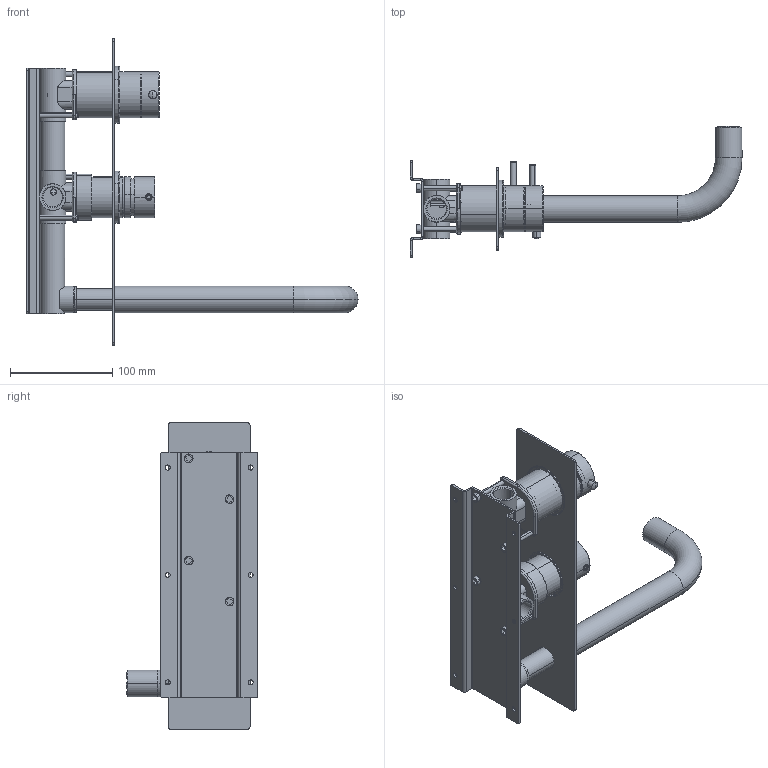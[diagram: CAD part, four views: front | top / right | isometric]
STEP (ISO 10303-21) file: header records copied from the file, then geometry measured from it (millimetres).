
FILE_DESCRIPTION (( 'STEP AP203' ), '1' );
FILE_NAME ('ETM5N.STEP', '2024-02-02T15:25:09', ( '' ), ( '' ), 'SwSTEP 2.0', 'SolidWorks 2023', '' );
FILE_SCHEMA (( 'CONFIG_CONTROL_DESIGN' ));
Length unit declared in the file: millimetre
Products named in the file (47): EU1173_0; C11.14.0013; 1174G; 1000; C12.00.0008; C10.00.0011; C24.1966.00.0; C47.00.0020.01; VITETC5x40; C25.1964.00.0; C13.00.0062; FERMO38; C47.00.0023.01; OR3934262ACS; ADATTATORE MEZZO; AS535_00; OR4569262NBR; 1174; C47.00.0076.00; C47.00.0015; EU0615_0; C24.1457.00.2; CAPPUCCIO VASCA 3 FORI; C10.00.0017; C23.1878.01; C24.1992.00.0; EU1996_0; C25.2691.00; 405-40CPA GEDA; EU1456_0; EU0620_0; C24.1965.00.0; C24.1993.00.0; EU1995_0; C11.14.0007; EROGATORE VASCA E DOCCIA; C25.1173.00.0; IST81; C11.14.0009; ETM5N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
Assembly tree (52 placements, depth 4):
  ETM5N
    IST81
      405-40CPA GEDA
        1174G
        EROGATORE VASCA E DOCCIA
        TUBO DI GIUNZIONE VASCA E DOCCIA
        1174
        ADATTATORE MEZZO
      C24.1966.00.0
      C25.1964.00.0
      C12.00.0008
      C12.00.0017  x2
      1000
      C47.00.0015
      C24.1965.00.0
      C10.00.0011
      VITETC5x40  x4
      C10.00.0017
      C24.1455.00.0
      C47.00.0020.01
      C24.1993.00.0
    AS757_00
      C24.1992.00.0
      C25.1173.00.0
      C23.1878.01
      C11.14.0009
      C11.14.0007
      C47.00.0023.01
    EU1456_0
    FERMO38
    EU0620_0
    EU0615_0
    AS535_00
      C24.1457.00.2
      C25.0814.00.0
      C11.14.0013
      C11.14.0009
      C47.00.0023.01
      C47.00.0076.00
    EU1173_0
    77GP_SPOUTT1
    C13.00.0062
    GRANCO M4x3 ACCIAIO
    CAPPUCCIO VASCA 3 FORI
    C25.2691.00
    EU1995_0
    EU1996_0
    OR3934262ACS
    OR4569262NBR
Bounding box: 324.5 x 128.5 x 300 mm (x, y, z)
Volume: 517981 mm3; surface area: 322133.5 mm2
Topology: 54 solids, 54 shells, 2829 faces, 7261 edges, 4629 vertices
Faces by surface type: plane 1302, cylinder 974, cone 300, torus 128, bspline 123, sphere 2
Entity records: 99222 total; most frequent: CARTESIAN_POINT 27575, ORIENTED_EDGE 14000, DIRECTION 13901, EDGE_CURVE 7000, AXIS2_PLACEMENT_3D 5132, VERTEX_POINT 4473, VECTOR 3637, LINE 3637
